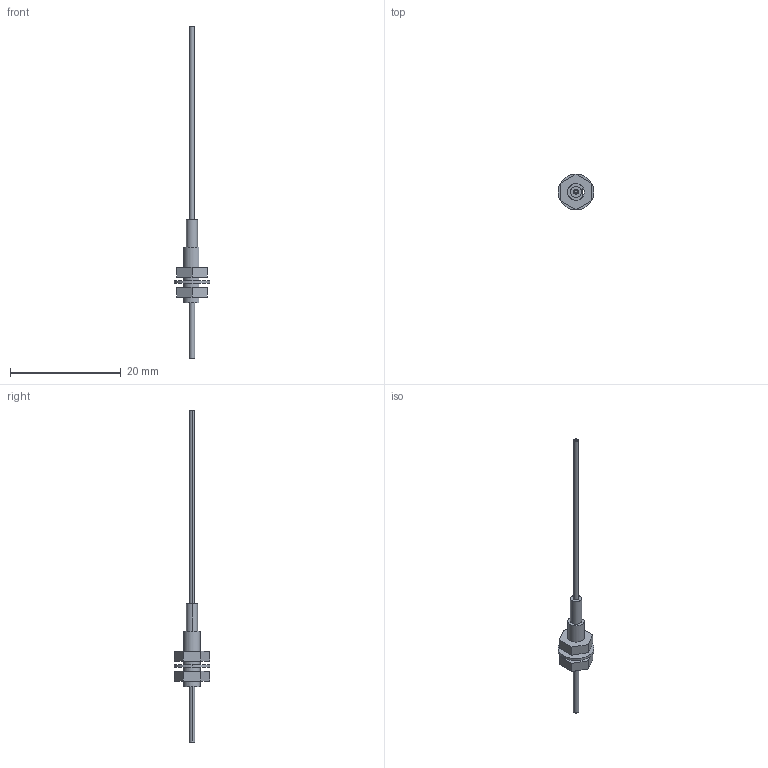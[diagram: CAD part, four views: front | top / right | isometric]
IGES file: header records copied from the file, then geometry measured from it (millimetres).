
Start section: SolidWorks IGES FILE using analytic representation for surfaces
Global section: file name: \\intra-srv04\開発データ\CAD_Data\CAD委員会\3D電子ｶﾀﾛｸﾞ\製品カタログ（新）\0_IGES\FT-NFM2S4.IGS,41HSolidWorks 2004; native system: by SolidWorks Corporation; preprocessor: Version 5.3; author: mf1158; date: 050908.111643; units: millimetre
Bounding box: 6.5 x 6.5 x 60 mm (x, y, z)
Volume: 193.8 mm3; surface area: 512.3 mm2
Topology: 4 solids, 4 shells, 42 faces, 90 edges, 60 vertices
Faces by surface type: plane 25, revolution 17
